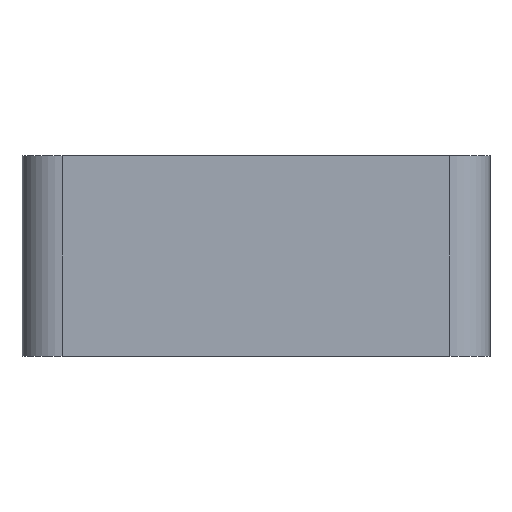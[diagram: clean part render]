
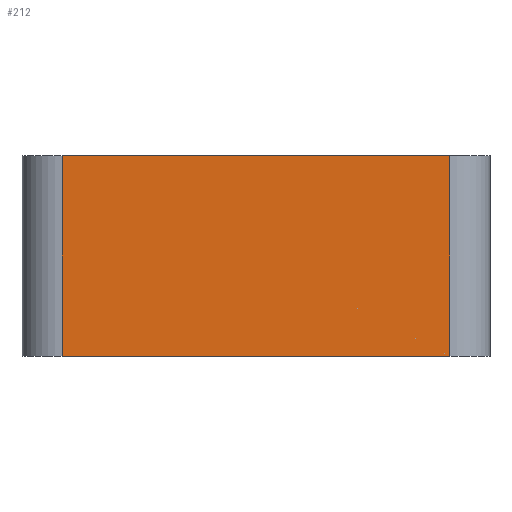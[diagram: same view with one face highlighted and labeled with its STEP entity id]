
A CAD part, front view. The second image highlights one B-rep face of the part: STEP entity #212.
In plain terms, the highlighted planar face has unit normal (0, -1, 0).
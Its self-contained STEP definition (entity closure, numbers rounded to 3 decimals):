
#163=FACE_OUTER_BOUND('',#558,.T.);
#212=ADVANCED_FACE('',(#163),#296,.T.);
#296=PLANE('',#1553);
#334=LINE('',#2214,#393);
#335=LINE('',#2218,#394);
#336=LINE('',#2221,#395);
#337=LINE('',#2222,#396);
#393=VECTOR('',#1704,1.);
#394=VECTOR('',#1709,1.);
#395=VECTOR('',#1710,1.);
#396=VECTOR('',#1711,1.);
#558=EDGE_LOOP('',(#721,#722,#723,#724));
#721=ORIENTED_EDGE('',*,*,#1203,.T.);
#722=ORIENTED_EDGE('',*,*,#1204,.T.);
#723=ORIENTED_EDGE('',*,*,#1201,.T.);
#724=ORIENTED_EDGE('',*,*,#1205,.T.);
#1069=VERTEX_POINT('',#2213);
#1070=VERTEX_POINT('',#2215);
#1071=VERTEX_POINT('',#2219);
#1072=VERTEX_POINT('',#2220);
#1201=EDGE_CURVE('',#1070,#1069,#334,.T.);
#1203=EDGE_CURVE('',#1071,#1072,#335,.T.);
#1204=EDGE_CURVE('',#1072,#1070,#336,.T.);
#1205=EDGE_CURVE('',#1069,#1071,#337,.T.);
#1553=AXIS2_PLACEMENT_3D('',#2223,#1712,#1713);
#1704=DIRECTION('',(-1.,0.,0.));
#1709=DIRECTION('',(1.,0.,0.));
#1710=DIRECTION('',(0.,0.,1.));
#1711=DIRECTION('',(0.,0.,-1.));
#1712=DIRECTION('',(0.,-1.,0.));
#1713=DIRECTION('',(0.,0.,-1.));
#2213=CARTESIAN_POINT('',(3.,0.,15.));
#2214=CARTESIAN_POINT('',(17.5,0.,15.));
#2215=CARTESIAN_POINT('',(32.,0.,15.));
#2218=CARTESIAN_POINT('',(17.5,0.,0.));
#2219=CARTESIAN_POINT('',(3.,0.,0.));
#2220=CARTESIAN_POINT('',(32.,0.,0.));
#2221=CARTESIAN_POINT('',(32.,0.,0.));
#2222=CARTESIAN_POINT('',(3.,0.,0.));
#2223=CARTESIAN_POINT('',(17.5,0.,0.));
